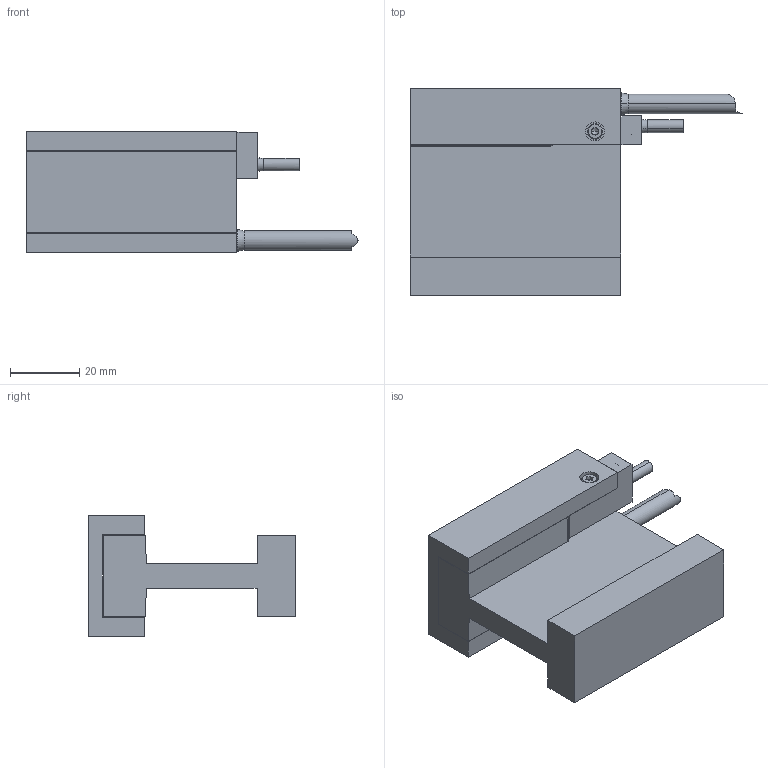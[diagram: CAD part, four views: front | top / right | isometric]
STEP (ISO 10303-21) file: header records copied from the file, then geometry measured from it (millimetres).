
FILE_DESCRIPTION (( 'STEP AP214' ), '1' );
FILE_NAME ('DX30F-C1 -REV.step', '2022-05-06T02:56:36', ( '' ), ( '' ), 'SwSTEP 2.0', 'SolidWorks 2020', '' );
FILE_SCHEMA (( 'AUTOMOTIVE_DESIGN' ));
Length unit declared in the file: millimetre
Products named in the file (1): DX30F-C1 -REV
Bounding box: 96 x 60 x 35 mm (x, y, z)
Volume: 66257.1 mm3; surface area: 24452.5 mm2
Topology: 7 solids, 8 shells, 163 faces, 377 edges, 228 vertices
Faces by surface type: plane 88, cylinder 43, cone 24, torus 8
Entity records: 6413 total; most frequent: CARTESIAN_POINT 848, DIRECTION 791, ORIENTED_EDGE 722, EDGE_CURVE 361, AXIS2_PLACEMENT_3D 279, VECTOR 233, LINE 233, VERTEX_POINT 228
